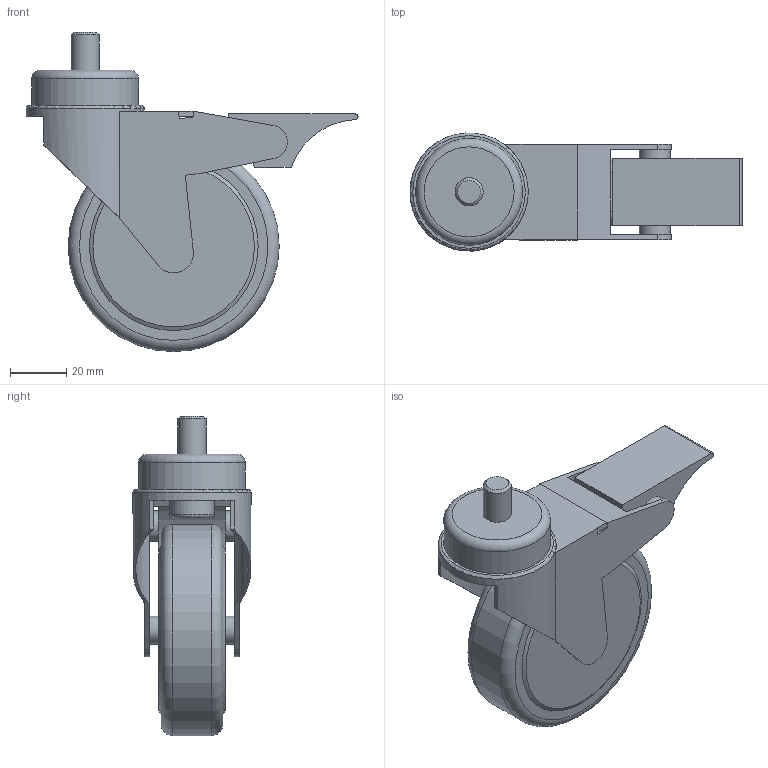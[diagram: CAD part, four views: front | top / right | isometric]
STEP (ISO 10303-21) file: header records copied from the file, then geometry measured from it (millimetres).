
FILE_DESCRIPTION((''),'2;1');
FILE_NAME('C:\Documents and Settings\Administrator\My Documents\Andys Backup Data\ANDY''S INVENTOR\INVENTOR LIBRARIES\MINITEC INVENTOR LIBRARIES\FEET WHEELS FLOOR FASTENING SUPPORTS\A PACKED FILES\STEP FILES\21.1120 WHEEL WITH BRAKE.stp','2010-06-28T08:28:32',('Administrator'),(''),'Autodesk Inventor 2009','Autodesk Inventor 2009','');
FILE_SCHEMA(('CONFIG_CONTROL_DESIGN'));
Length unit declared in the file: millimetre
Products named in the file (6): 21.1120 WHEEL WITH BRAKE; 21.1120 FORK; 21.1120 BRAKE; 21.1120 WHEEL 75mm; DIN 7984 M10 x 30; WAHSER M10 ROUND DIN 125-1A
Assembly tree (5 placements, depth 2):
  21.1120 WHEEL WITH BRAKE
    21.1120 FORK
    21.1120 BRAKE
    21.1120 WHEEL 75mm
    DIN 7984 M10 x 30
    WAHSER M10 ROUND DIN 125-1A
Bounding box: 118 x 41.96 x 113.5 mm (x, y, z)
Volume: 142918 mm3; surface area: 39688.2 mm2
Topology: 5 solids, 5 shells, 84 faces, 210 edges, 136 vertices
Faces by surface type: plane 50, cylinder 20, bspline 5, torus 5, cone 4
Full cylindrical faces by diameter (mm): 8 x1, 10 x3, 10.5 x1, 11 x2, 16 x1, 20 x1, 38 x1, 40 x1, 42 x1, 75 x1
Entity records: 2661 total; most frequent: CARTESIAN_POINT 464, DIRECTION 418, ORIENTED_EDGE 364, EDGE_CURVE 182, AXIS2_PLACEMENT_3D 152, VERTEX_POINT 132, EDGE_LOOP 124, VECTOR 114
